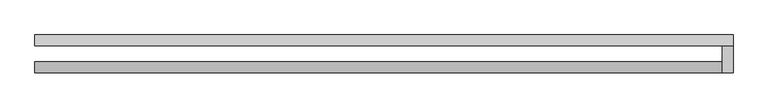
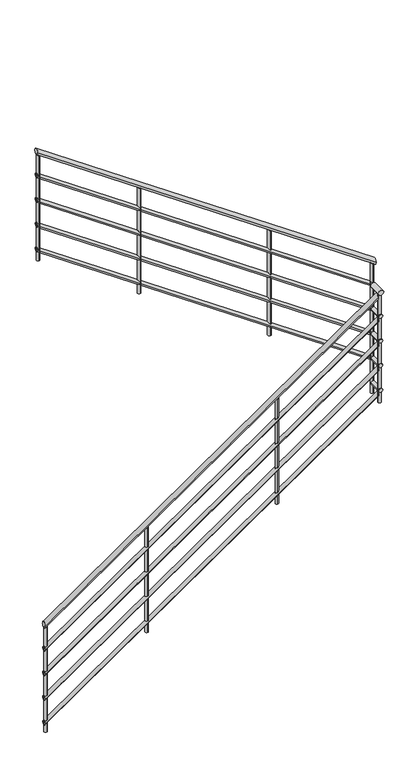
"""IFC4 building model written with IfcOpenShell, lengths in millimetres: railing geometry, r パイプ H900."""

import ifcopenshell
import ifcopenshell.guid

model = None  # the IFC model being written
_history = None  # IfcOwnerHistory: only IFC2X3 demands one
_inside = {}  # id of a spatial element -> (the spatial element, [elements in it])
_under = {}  # id of a project, library or spatial element -> (it, [spatial elements below it])
_declared = {}  # id of a project -> (the project, [libraries it declares])
_typed = {}  # id of a type object -> (the type object, [elements of that type])
_made_of = {}  # id of a material, layer set ... -> (it, [elements and type objects made of it])


def new_model(schema):
    """Start an empty IFC model of exactly this schema.

    Asked for "IFC4X3", IfcOpenShell would pick the latest addendum, in which some entities
    have other attributes; the version numbers below select the first issue.
    IFC2X3 requires an IfcOwnerHistory on every rooted entity: one is made here for all.
    """
    global model, _history
    if schema == "IFC4X3":
        model = ifcopenshell.file(schema_version=(4, 3, 0, 0))
    else:
        model = ifcopenshell.file(schema=schema)
    _inside.clear()
    _under.clear()
    _declared.clear()
    _typed.clear()
    _made_of.clear()
    _history = None
    if model.schema == "IFC2X3":
        org = make("IfcOrganization", Name="unknown")
        user = make(
            "IfcPersonAndOrganization",
            ThePerson=make("IfcPerson", FamilyName="unknown"),
            TheOrganization=org,
        )
        app = make(
            "IfcApplication",
            ApplicationDeveloper=org,
            Version="unknown",
            ApplicationFullName="unknown",
            ApplicationIdentifier="unknown",
        )
        _history = make(
            "IfcOwnerHistory",
            OwningUser=user,
            OwningApplication=app,
            ChangeAction="ADDED",
            CreationDate=0,
        )
    return model


def make(cls, **values):
    """One entity of the class cls with the attributes given. An attribute that is None is left unset."""
    return model.create_entity(
        cls, **{name: value for name, value in values.items() if value is not None}
    )


def rooted(cls, **values):
    """An entity with a GlobalId (a new one), such as an element, a storey or a relation."""
    return make(cls, GlobalId=ifcopenshell.guid.new(), OwnerHistory=_history, **values)


def si_unit(unit_type, name, prefix=None):
    """IfcSIUnit, for example si_unit("LENGTHUNIT", "METRE", prefix="MILLI")."""
    return make("IfcSIUnit", UnitType=unit_type, Prefix=prefix, Name=name)


def assignment(units):
    """IfcUnitAssignment: the units of a project."""
    return None if units is None else make("IfcUnitAssignment", Units=units)


def point(xyz):
    """IfcCartesianPoint."""
    return None if xyz is None else make("IfcCartesianPoint", Coordinates=xyz)


def direction(xyz):
    """IfcDirection."""
    return None if xyz is None else make("IfcDirection", DirectionRatios=xyz)


def frame(location, z_axis=None, x_axis=None):
    """IfcAxis2Placement3D, a coordinate frame: its origin and axes. An axis left out is left unset."""
    return make(
        "IfcAxis2Placement3D",
        Location=point(location),
        Axis=direction(z_axis),
        RefDirection=direction(x_axis),
    )


def frame_2d(location, x_axis=None):
    """IfcAxis2Placement2D, a coordinate frame in the plane: its origin and x axis."""
    return make(
        "IfcAxis2Placement2D", Location=point(location), RefDirection=direction(x_axis)
    )


def origin():
    """The frame at (0, 0, 0) with its axes left unset."""
    return frame((0.0, 0.0, 0.0))


def place(relative_to, where):
    """IfcLocalPlacement: puts the frame where relative to a parent placement (None: the world)."""
    return make(
        "IfcLocalPlacement", PlacementRelTo=relative_to, RelativePlacement=where
    )


def context(
    kind, dimensions, precision=None, world=None, true_north=None, identifier=None
):
    """IfcGeometricRepresentationContext, for example the 3D "Model" context."""
    return make(
        "IfcGeometricRepresentationContext",
        ContextIdentifier=identifier,
        ContextType=kind,
        CoordinateSpaceDimension=dimensions,
        Precision=precision,
        WorldCoordinateSystem=world,
        TrueNorth=true_north,
    )


def project(units=None, contexts=None):
    """IfcProject with its units and contexts."""
    return rooted(
        "IfcProject",
        Name="project",
        RepresentationContexts=contexts,
        UnitsInContext=assignment(units),
    )


def spatial(cls, under=None, at=None, **own):
    """A site, building, storey or space (cls), placed at a placement, below another one or the project."""
    s = rooted(cls, ObjectPlacement=at, **own)
    if under is not None:
        _under.setdefault(under.id(), (under, []))[1].append(s)
    return s


def circle_curve(where, radius):
    """IfcCircle in the frame where."""
    return make("IfcCircle", Position=where, Radius=radius)


def ellipse_curve(where, semi_axis1, semi_axis2):
    """IfcEllipse in the frame where."""
    return make(
        "IfcEllipse", Position=where, SemiAxis1=semi_axis1, SemiAxis2=semi_axis2
    )


def trimmed(basis, trim1, trim2, sense, master):
    """IfcTrimmedCurve: the piece of a basis curve between two trims."""
    return make(
        "IfcTrimmedCurve",
        BasisCurve=basis,
        Trim1=trim1,
        Trim2=trim2,
        SenseAgreement=sense,
        MasterRepresentation=master,
    )


def segment(curve, same_sense, transition):
    """IfcCompositeCurveSegment."""
    return make(
        "IfcCompositeCurveSegment",
        Transition=transition,
        SameSense=same_sense,
        ParentCurve=curve,
    )


def composite_curve(segments, self_intersect=None):
    """IfcCompositeCurve: segments joined end to end."""
    return make("IfcCompositeCurve", Segments=segments, SelfIntersect=self_intersect)


def outline(outer, holes=None, kind="AREA"):
    """IfcArbitraryClosedProfileDef: a profile drawn as a closed curve; with holes, ...WithVoids."""
    if holes is None:
        return make("IfcArbitraryClosedProfileDef", ProfileType=kind, OuterCurve=outer)
    return make(
        "IfcArbitraryProfileDefWithVoids",
        ProfileType=kind,
        OuterCurve=outer,
        InnerCurves=holes,
    )


def extrude(swept, where, along, depth):
    """IfcExtrudedAreaSolid: the profile swept, set in the frame where, extruded along a direction by depth."""
    return make(
        "IfcExtrudedAreaSolid",
        SweptArea=swept,
        Position=where,
        ExtrudedDirection=direction(along),
        Depth=depth,
    )


def shape(context_of_items, identifier, shape_type, items):
    """IfcShapeRepresentation: the items that make up one representation, for example the "Body"."""
    return make(
        "IfcShapeRepresentation",
        ContextOfItems=context_of_items,
        RepresentationIdentifier=identifier,
        RepresentationType=shape_type,
        Items=items,
    )


def source(mapping_origin, context_of_items, identifier, shape_type, items):
    """IfcRepresentationMap: a shape defined once, which mapped items show again and again."""
    return make(
        "IfcRepresentationMap",
        MappingOrigin=mapping_origin,
        MappedRepresentation=shape(context_of_items, identifier, shape_type, items),
    )


def transform(
    local_origin,
    x_axis=None,
    y_axis=None,
    z_axis=None,
    scale=None,
    scale2=None,
    scale3=None,
    uniform=True,
):
    """IfcCartesianTransformationOperator3D, or its non-uniform kind. x_axis, y_axis, z_axis: its Axis1, 2, 3."""
    if uniform:
        return make(
            "IfcCartesianTransformationOperator3D",
            Axis1=direction(x_axis),
            Axis2=direction(y_axis),
            LocalOrigin=point(local_origin),
            Scale=scale,
            Axis3=direction(z_axis),
        )
    return make(
        "IfcCartesianTransformationOperator3DnonUniform",
        Axis1=direction(x_axis),
        Axis2=direction(y_axis),
        LocalOrigin=point(local_origin),
        Scale=scale,
        Axis3=direction(z_axis),
        Scale2=scale2,
        Scale3=scale3,
    )


def mapped(mapping_source, mapping_target):
    """IfcMappedItem: shows the shape of a source again, moved by a transform."""
    return make(
        "IfcMappedItem", MappingSource=mapping_source, MappingTarget=mapping_target
    )


def made_of(thing, what):
    """Note that an element or type object is made of a material, layer set ...; save() writes the relation."""
    if what is not None:
        _made_of.setdefault(what.id(), (what, []))[1].append(thing)
    return thing


def element(
    cls,
    number,
    at=None,
    inside=None,
    cuts=None,
    type_object=None,
    material=None,
    context=None,
    identifier="Body",
    shape_type=None,
    held_by="IfcProductDefinitionShape",
    body=None,
    shapes=None,
    **own,
):
    """One element of the class cls, such as IfcWall. Its Tag is "e" and its number.

    at: its placement. inside: the storey or other place that contains it. cuts: it is an
    opening in that element (IfcRelVoidsElement). A single representation is given by context,
    identifier, shape_type and body (its items); several are given by shapes. held_by: the class
    of the entity that holds the representations. save() writes the other relations.
    """
    e = rooted(cls, Tag="e%d" % number, ObjectPlacement=at, **own)
    if body is not None:
        shapes = [shape(context, identifier, shape_type, body)]
    if shapes is not None:
        e.Representation = make(held_by, Representations=shapes)
    if inside is not None:
        _inside.setdefault(inside.id(), (inside, []))[1].append(e)
    if cuts is not None:
        rooted(
            "IfcRelVoidsElement", RelatingBuildingElement=cuts, RelatedOpeningElement=e
        )
    if type_object is not None:
        _typed.setdefault(type_object.id(), (type_object, []))[1].append(e)
    return made_of(e, material)


def aggregate(whole, parts):
    """IfcRelAggregates: a whole, such as a stair, and the parts it consists of."""
    return rooted("IfcRelAggregates", RelatingObject=whole, RelatedObjects=parts)


def save(model, path):
    """Write the relations noted so far, then the file.

    IfcRelAggregates (storeys below a building ...), IfcRelContainedInSpatialStructure (elements
    in a storey), IfcRelDefinesByType, IfcRelAssociatesMaterial and IfcRelDeclares: one each for
    every whole, place, type object, material and project.
    """
    for whole, parts in _under.values():
        aggregate(whole, parts)
    for where, things in _inside.values():
        rooted(
            "IfcRelContainedInSpatialStructure",
            RelatedElements=things,
            RelatingStructure=where,
        )
    for kind, things in _typed.values():
        rooted("IfcRelDefinesByType", RelatedObjects=things, RelatingType=kind)
    for what, things in _made_of.values():
        rooted("IfcRelAssociatesMaterial", RelatedObjects=things, RelatingMaterial=what)
    for by, libraries in _declared.values():
        rooted("IfcRelDeclares", RelatingContext=by, RelatedDefinitions=libraries)
    model.write(path)


def plane_surface(at):
    """IfcPlane: the flat surface through the origin of the frame at, square to its z axis."""
    return make("IfcPlane", Position=at)


def cylinder_surface(at, radius):
    """IfcCylindricalSurface: all points at the distance radius from the z axis of the frame at."""
    return make("IfcCylindricalSurface", Position=at, Radius=radius)


def advanced_brep(points, edges, surfaces, faces):
    """IfcAdvancedBrep: a solid bounded by faces that lie on surfaces and meet in shared edges.

    An edge is (start, end): straight between two places in points (the first is 0);
    or (start, end, curve); or (start, end, curve, False) where it runs against its curve.
    A face is (place in surfaces, loops), or (place, loops, False) where it looks against
    its surface's normal. A loop lists edges by number (the first is 1), with a minus sign
    where the edge is run from its end to its start. The first loop is the outer one.
    """
    corners = [point(p) for p in points]
    vertices = [make("IfcVertexPoint", VertexGeometry=c) for c in corners]
    made = []
    for start, end, *more in edges:
        made.append(
            make(
                "IfcEdgeCurve",
                EdgeStart=vertices[start],
                EdgeEnd=vertices[end],
                EdgeGeometry=more[0] if more else make("IfcPolyline", Points=[corners[start], corners[end]]),
                SameSense=more[1] if len(more) > 1 else True,
            )
        )
    hull = []
    for where, loops, *sense in faces:
        bounds = []
        for j, loop in enumerate(loops):
            ring = [make("IfcOrientedEdge", EdgeElement=made[abs(k) - 1], Orientation=k > 0) for k in loop]
            bounds.append(
                make(
                    "IfcFaceOuterBound" if j == 0 else "IfcFaceBound",
                    Bound=make("IfcEdgeLoop", EdgeList=ring),
                    Orientation=True,
                )
            )
        hull.append(make("IfcAdvancedFace", Bounds=bounds, FaceSurface=surfaces[where], SameSense=sense[0] if sense else True))
    return make("IfcAdvancedBrep", Outer=make("IfcClosedShell", CfsFaces=hull))


def railing_d2a92688(model_context):
    return source(origin(), model_context, "Body", "SolidModel", [
        advanced_brep(
        [(-1895.9784025, 14854.6868987, 1695.6747872), (-1895.9784025, 14894.6868987, 1695.6747872), (659.0215975, 14854.6868987, 3464.5209411), (659.0215975, 14894.6868987, 3464.5209411)],
        [
            (0, 1, ellipse_curve(frame((-1895.9784025, 14874.6868987, 1695.6747872), z_axis=(-1.0, 0.0, 0.0), x_axis=(0.0, 0.0, -1.0)), 24.3252128, 20.0)),
            (1, 0, ellipse_curve(frame((-1895.9784025, 14874.6868987, 1695.6747872), z_axis=(-1.0, 0.0, 0.0), x_axis=(0.0, 0.0, -1.0)), 24.3252128, 20.0)),
            (2, 3, ellipse_curve(frame((659.0215975, 14874.6868987, 3464.5209411), z_axis=(1.0, 0.0, 0.0), x_axis=(0.0, 0.0, -1.0)), 24.3252128, 20.0)),
            (3, 2, ellipse_curve(frame((659.0215975, 14874.6868987, 3464.5209411), z_axis=(1.0, 0.0, 0.0), x_axis=(0.0, 0.0, -1.0)), 24.3252128, 20.0)),
            (0, 2),
            (3, 1),
        ],
        [
            plane_surface(frame((-1895.9784025, 14874.6868987, 1720.0), z_axis=(-1.0, 0.0, 0.0), x_axis=(0.0, 1.0, 0.0))),
            plane_surface(frame((659.0215975, 14874.6868987, 3488.8461538), z_axis=(1.0, 0.0, 0.0), x_axis=(0.0, 1.0, 0.0))),
            cylinder_surface(frame((-1884.5942029, 14874.6868987, 1703.5561562), z_axis=(-0.8221921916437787, 0.0, -0.5692099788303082), x_axis=(0.0, 1.0, 0.0)), 20.0),
        ],
        [
            (0, [[1, 2]]),
            (1, [[3, 4]]),
            (2, [[-1, 5, -4, 6]]),
            (2, [[-2, -6, -3, -5]]),
        ],
    ),
        advanced_brep(
        [(699.0215975, 14854.6868987, 3500.0), (659.0215975, 14854.6868987, 3500.0), (699.0215975, 14954.6868987, 3500.0), (659.0215975, 14954.6868987, 3500.0)],
        [
            (0, 1, circle_curve(frame((679.0215975, 14854.6868987, 3500.0), z_axis=(0.0, -1.0, 0.0), x_axis=(-1.0, 0.0, 0.0)), 20.0)),
            (1, 0, circle_curve(frame((679.0215975, 14854.6868987, 3500.0), z_axis=(0.0, -1.0, 0.0), x_axis=(-1.0, 0.0, 0.0)), 20.0)),
            (2, 3, circle_curve(frame((679.0215975, 14954.6868987, 3500.0), z_axis=(0.0, 1.0, 0.0), x_axis=(-1.0, 0.0, 0.0)), 20.0)),
            (3, 2, circle_curve(frame((679.0215975, 14954.6868987, 3500.0), z_axis=(0.0, 1.0, 0.0), x_axis=(-1.0, 0.0, 0.0)), 20.0)),
            (0, 2),
            (3, 1),
        ],
        [
            plane_surface(frame((679.0215975, 14854.6868987, 3520.0), z_axis=(0.0, -1.0, 0.0), x_axis=(0.0, 0.0, 1.0))),
            plane_surface(frame((679.0215975, 14954.6868987, 3520.0), z_axis=(0.0, 1.0, 0.0), x_axis=(0.0, 0.0, 1.0))),
            cylinder_surface(frame((679.0215975, 14854.6868987, 3500.0), z_axis=(0.0, -1.0, 0.0), x_axis=(-1.0, 0.0, 0.0)), 20.0),
        ],
        [
            (0, [[1, 2]]),
            (1, [[3, 4]]),
            (2, [[-1, 5, -4, 6]]),
            (2, [[-2, -6, -3, -5]]),
        ],
    ),
        advanced_brep(
        [(699.0215975, 14994.6868987, 3679.1363257), (699.0215975, 14954.6868987, 3679.1363257), (-1895.9784025, 14994.6868987, 5475.6747872), (-1895.9784025, 14954.6868987, 5475.6747872)],
        [
            (0, 1, ellipse_curve(frame((699.0215975, 14974.6868987, 3679.1363257), z_axis=(1.0, 0.0, 0.0), x_axis=(0.0, 0.0, -1.0)), 24.3252128, 20.0)),
            (1, 0, ellipse_curve(frame((699.0215975, 14974.6868987, 3679.1363257), z_axis=(1.0, 0.0, 0.0), x_axis=(0.0, 0.0, -1.0)), 24.3252128, 20.0)),
            (2, 3, ellipse_curve(frame((-1895.9784025, 14974.6868987, 5475.6747872), z_axis=(-1.0, 0.0, 0.0), x_axis=(0.0, 0.0, -1.0)), 24.3252128, 20.0)),
            (3, 2, ellipse_curve(frame((-1895.9784025, 14974.6868987, 5475.6747872), z_axis=(-1.0, 0.0, 0.0), x_axis=(0.0, 0.0, -1.0)), 24.3252128, 20.0)),
            (0, 2),
            (3, 1),
        ],
        [
            plane_surface(frame((699.0215975, 14974.6868987, 3703.4615385), z_axis=(1.0, 0.0, 0.0), x_axis=(0.0, -1.0, 0.0))),
            plane_surface(frame((-1895.9784025, 14974.6868987, 5500.0), z_axis=(-1.0, 0.0, 0.0), x_axis=(0.0, -1.0, 0.0))),
            cylinder_surface(frame((687.6373979, 14974.6868987, 3687.0176946), z_axis=(0.8221921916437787, 0.0, -0.5692099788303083), x_axis=(0.0, -1.0, 0.0)), 20.0),
        ],
        [
            (0, [[1, 2]]),
            (1, [[3, 4]]),
            (2, [[-1, 5, -4, 6]]),
            (2, [[-2, -6, -3, -5]]),
        ],
    ),
        advanced_brep(
        [(-1895.9784025, 14859.6868987, 1501.7560904), (-1895.9784025, 14889.6868987, 1501.7560904), (664.0215975, 14859.6868987, 3274.0637827), (664.0215975, 14889.6868987, 3274.0637827)],
        [
            (0, 1, ellipse_curve(frame((-1895.9784025, 14874.6868987, 1501.7560904), z_axis=(-1.0, 0.0, 0.0), x_axis=(0.0, 0.0, -1.0)), 18.2439096, 15.0)),
            (1, 0, ellipse_curve(frame((-1895.9784025, 14874.6868987, 1501.7560904), z_axis=(-1.0, 0.0, 0.0), x_axis=(0.0, 0.0, -1.0)), 18.2439096, 15.0)),
            (2, 3, ellipse_curve(frame((664.0215975, 14874.6868987, 3274.0637827), z_axis=(1.0, 0.0, 0.0), x_axis=(0.0, 0.0, -1.0)), 18.2439096, 15.0)),
            (3, 2, ellipse_curve(frame((664.0215975, 14874.6868987, 3274.0637827), z_axis=(1.0, 0.0, 0.0), x_axis=(0.0, 0.0, -1.0)), 18.2439096, 15.0)),
            (0, 2),
            (3, 1),
        ],
        [
            plane_surface(frame((-1895.9784025, 14874.6868987, 1520.0), z_axis=(-1.0, 0.0, 0.0), x_axis=(0.0, 1.0, 0.0))),
            plane_surface(frame((664.0215975, 14874.6868987, 3292.3076923), z_axis=(1.0, 0.0, 0.0), x_axis=(0.0, 1.0, 0.0))),
            cylinder_surface(frame((-1887.4402528, 14874.6868987, 1507.6671171), z_axis=(-0.8221921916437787, 0.0, -0.5692099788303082), x_axis=(0.0, 1.0, 0.0)), 15.0),
        ],
        [
            (0, [[1, 2]]),
            (1, [[3, 4]]),
            (2, [[-1, 5, -4, 6]]),
            (2, [[-2, -6, -3, -5]]),
        ],
    ),
        advanced_brep(
        [(694.0215975, 14859.6868987, 3305.0), (664.0215975, 14859.6868987, 3305.0), (694.0215975, 14959.6868987, 3305.0), (664.0215975, 14959.6868987, 3305.0)],
        [
            (0, 1, circle_curve(frame((679.0215975, 14859.6868987, 3305.0), z_axis=(0.0, -1.0, 0.0), x_axis=(-1.0, 0.0, 0.0)), 15.0)),
            (1, 0, circle_curve(frame((679.0215975, 14859.6868987, 3305.0), z_axis=(0.0, -1.0, 0.0), x_axis=(-1.0, 0.0, 0.0)), 15.0)),
            (2, 3, circle_curve(frame((679.0215975, 14959.6868987, 3305.0), z_axis=(0.0, 1.0, 0.0), x_axis=(-1.0, 0.0, 0.0)), 15.0)),
            (3, 2, circle_curve(frame((679.0215975, 14959.6868987, 3305.0), z_axis=(0.0, 1.0, 0.0), x_axis=(-1.0, 0.0, 0.0)), 15.0)),
            (0, 2),
            (3, 1),
        ],
        [
            plane_surface(frame((679.0215975, 14859.6868987, 3320.0), z_axis=(0.0, -1.0, 0.0), x_axis=(0.0, 0.0, 1.0))),
            plane_surface(frame((679.0215975, 14959.6868987, 3320.0), z_axis=(0.0, 1.0, 0.0), x_axis=(0.0, 0.0, 1.0))),
            cylinder_surface(frame((679.0215975, 14859.6868987, 3305.0), z_axis=(0.0, -1.0, 0.0), x_axis=(-1.0, 0.0, 0.0)), 15.0),
        ],
        [
            (0, [[1, 2]]),
            (1, [[3, 4]]),
            (2, [[-1, 5, -4, 6]]),
            (2, [[-2, -6, -3, -5]]),
        ],
    ),
        advanced_brep(
        [(694.0215975, 14989.6868987, 3488.6791673), (694.0215975, 14959.6868987, 3488.6791673), (-1895.9784025, 14989.6868987, 5281.7560904), (-1895.9784025, 14959.6868987, 5281.7560904)],
        [
            (0, 1, ellipse_curve(frame((694.0215975, 14974.6868987, 3488.6791673), z_axis=(1.0, 0.0, 0.0), x_axis=(0.0, 0.0, -1.0)), 18.2439096, 15.0)),
            (1, 0, ellipse_curve(frame((694.0215975, 14974.6868987, 3488.6791673), z_axis=(1.0, 0.0, 0.0), x_axis=(0.0, 0.0, -1.0)), 18.2439096, 15.0)),
            (2, 3, ellipse_curve(frame((-1895.9784025, 14974.6868987, 5281.7560904), z_axis=(-1.0, 0.0, 0.0), x_axis=(0.0, 0.0, -1.0)), 18.2439096, 15.0)),
            (3, 2, ellipse_curve(frame((-1895.9784025, 14974.6868987, 5281.7560904), z_axis=(-1.0, 0.0, 0.0), x_axis=(0.0, 0.0, -1.0)), 18.2439096, 15.0)),
            (0, 2),
            (3, 1),
        ],
        [
            plane_surface(frame((694.0215975, 14974.6868987, 3506.9230769), z_axis=(1.0, 0.0, 0.0), x_axis=(0.0, -1.0, 0.0))),
            plane_surface(frame((-1895.9784025, 14974.6868987, 5300.0), z_axis=(-1.0, 0.0, 0.0), x_axis=(0.0, -1.0, 0.0))),
            cylinder_surface(frame((685.4834478, 14974.6868987, 3494.590194), z_axis=(0.8221921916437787, 0.0, -0.5692099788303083), x_axis=(0.0, -1.0, 0.0)), 15.0),
        ],
        [
            (0, [[1, 2]]),
            (1, [[3, 4]]),
            (2, [[-1, 5, -4, 6]]),
            (2, [[-2, -6, -3, -5]]),
        ],
    ),
        advanced_brep(
        [(-1895.9784025, 14859.6868987, 1301.7560904), (-1895.9784025, 14889.6868987, 1301.7560904), (664.0215975, 14859.6868987, 3074.0637827), (664.0215975, 14889.6868987, 3074.0637827)],
        [
            (0, 1, ellipse_curve(frame((-1895.9784025, 14874.6868987, 1301.7560904), z_axis=(-1.0, 0.0, 0.0), x_axis=(0.0, 0.0, -1.0)), 18.2439096, 15.0)),
            (1, 0, ellipse_curve(frame((-1895.9784025, 14874.6868987, 1301.7560904), z_axis=(-1.0, 0.0, 0.0), x_axis=(0.0, 0.0, -1.0)), 18.2439096, 15.0)),
            (2, 3, ellipse_curve(frame((664.0215975, 14874.6868987, 3074.0637827), z_axis=(1.0, 0.0, 0.0), x_axis=(0.0, 0.0, -1.0)), 18.2439096, 15.0)),
            (3, 2, ellipse_curve(frame((664.0215975, 14874.6868987, 3074.0637827), z_axis=(1.0, 0.0, 0.0), x_axis=(0.0, 0.0, -1.0)), 18.2439096, 15.0)),
            (0, 2),
            (3, 1),
        ],
        [
            plane_surface(frame((-1895.9784025, 14874.6868987, 1320.0), z_axis=(-1.0, 0.0, 0.0), x_axis=(0.0, 1.0, 0.0))),
            plane_surface(frame((664.0215975, 14874.6868987, 3092.3076923), z_axis=(1.0, 0.0, 0.0), x_axis=(0.0, 1.0, 0.0))),
            cylinder_surface(frame((-1887.4402528, 14874.6868987, 1307.6671171), z_axis=(-0.8221921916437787, 0.0, -0.5692099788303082), x_axis=(0.0, 1.0, 0.0)), 15.0),
        ],
        [
            (0, [[1, 2]]),
            (1, [[3, 4]]),
            (2, [[-1, 5, -4, 6]]),
            (2, [[-2, -6, -3, -5]]),
        ],
    ),
        advanced_brep(
        [(694.0215975, 14859.6868987, 3105.0), (664.0215975, 14859.6868987, 3105.0), (694.0215975, 14959.6868987, 3105.0), (664.0215975, 14959.6868987, 3105.0)],
        [
            (0, 1, circle_curve(frame((679.0215975, 14859.6868987, 3105.0), z_axis=(0.0, -1.0, 0.0), x_axis=(-1.0, 0.0, 0.0)), 15.0)),
            (1, 0, circle_curve(frame((679.0215975, 14859.6868987, 3105.0), z_axis=(0.0, -1.0, 0.0), x_axis=(-1.0, 0.0, 0.0)), 15.0)),
            (2, 3, circle_curve(frame((679.0215975, 14959.6868987, 3105.0), z_axis=(0.0, 1.0, 0.0), x_axis=(-1.0, 0.0, 0.0)), 15.0)),
            (3, 2, circle_curve(frame((679.0215975, 14959.6868987, 3105.0), z_axis=(0.0, 1.0, 0.0), x_axis=(-1.0, 0.0, 0.0)), 15.0)),
            (0, 2),
            (3, 1),
        ],
        [
            plane_surface(frame((679.0215975, 14859.6868987, 3120.0), z_axis=(0.0, -1.0, 0.0), x_axis=(0.0, 0.0, 1.0))),
            plane_surface(frame((679.0215975, 14959.6868987, 3120.0), z_axis=(0.0, 1.0, 0.0), x_axis=(0.0, 0.0, 1.0))),
            cylinder_surface(frame((679.0215975, 14859.6868987, 3105.0), z_axis=(0.0, -1.0, 0.0), x_axis=(-1.0, 0.0, 0.0)), 15.0),
        ],
        [
            (0, [[1, 2]]),
            (1, [[3, 4]]),
            (2, [[-1, 5, -4, 6]]),
            (2, [[-2, -6, -3, -5]]),
        ],
    ),
        advanced_brep(
        [(694.0215975, 14989.6868987, 3288.6791673), (694.0215975, 14959.6868987, 3288.6791673), (-1895.9784025, 14989.6868987, 5081.7560904), (-1895.9784025, 14959.6868987, 5081.7560904)],
        [
            (0, 1, ellipse_curve(frame((694.0215975, 14974.6868987, 3288.6791673), z_axis=(1.0, 0.0, 0.0), x_axis=(0.0, 0.0, -1.0)), 18.2439096, 15.0)),
            (1, 0, ellipse_curve(frame((694.0215975, 14974.6868987, 3288.6791673), z_axis=(1.0, 0.0, 0.0), x_axis=(0.0, 0.0, -1.0)), 18.2439096, 15.0)),
            (2, 3, ellipse_curve(frame((-1895.9784025, 14974.6868987, 5081.7560904), z_axis=(-1.0, 0.0, 0.0), x_axis=(0.0, 0.0, -1.0)), 18.2439096, 15.0)),
            (3, 2, ellipse_curve(frame((-1895.9784025, 14974.6868987, 5081.7560904), z_axis=(-1.0, 0.0, 0.0), x_axis=(0.0, 0.0, -1.0)), 18.2439096, 15.0)),
            (0, 2),
            (3, 1),
        ],
        [
            plane_surface(frame((694.0215975, 14974.6868987, 3306.9230769), z_axis=(1.0, 0.0, 0.0), x_axis=(0.0, -1.0, 0.0))),
            plane_surface(frame((-1895.9784025, 14974.6868987, 5100.0), z_axis=(-1.0, 0.0, 0.0), x_axis=(0.0, -1.0, 0.0))),
            cylinder_surface(frame((685.4834478, 14974.6868987, 3294.590194), z_axis=(0.8221921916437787, 0.0, -0.5692099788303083), x_axis=(0.0, -1.0, 0.0)), 15.0),
        ],
        [
            (0, [[1, 2]]),
            (1, [[3, 4]]),
            (2, [[-1, 5, -4, 6]]),
            (2, [[-2, -6, -3, -5]]),
        ],
    ),
        advanced_brep(
        [(-1895.9784025, 14859.6868987, 1101.7560904), (-1895.9784025, 14889.6868987, 1101.7560904), (664.0215975, 14859.6868987, 2874.0637827), (664.0215975, 14889.6868987, 2874.0637827)],
        [
            (0, 1, ellipse_curve(frame((-1895.9784025, 14874.6868987, 1101.7560904), z_axis=(-1.0, 0.0, 0.0), x_axis=(0.0, 0.0, -1.0)), 18.2439096, 15.0)),
            (1, 0, ellipse_curve(frame((-1895.9784025, 14874.6868987, 1101.7560904), z_axis=(-1.0, 0.0, 0.0), x_axis=(0.0, 0.0, -1.0)), 18.2439096, 15.0)),
            (2, 3, ellipse_curve(frame((664.0215975, 14874.6868987, 2874.0637827), z_axis=(1.0, 0.0, 0.0), x_axis=(0.0, 0.0, -1.0)), 18.2439096, 15.0)),
            (3, 2, ellipse_curve(frame((664.0215975, 14874.6868987, 2874.0637827), z_axis=(1.0, 0.0, 0.0), x_axis=(0.0, 0.0, -1.0)), 18.2439096, 15.0)),
            (0, 2),
            (3, 1),
        ],
        [
            plane_surface(frame((-1895.9784025, 14874.6868987, 1120.0), z_axis=(-1.0, 0.0, 0.0), x_axis=(0.0, 1.0, 0.0))),
            plane_surface(frame((664.0215975, 14874.6868987, 2892.3076923), z_axis=(1.0, 0.0, 0.0), x_axis=(0.0, 1.0, 0.0))),
            cylinder_surface(frame((-1887.4402528, 14874.6868987, 1107.6671171), z_axis=(-0.8221921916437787, 0.0, -0.5692099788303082), x_axis=(0.0, 1.0, 0.0)), 15.0),
        ],
        [
            (0, [[1, 2]]),
            (1, [[3, 4]]),
            (2, [[-1, 5, -4, 6]]),
            (2, [[-2, -6, -3, -5]]),
        ],
    ),
        advanced_brep(
        [(694.0215975, 14859.6868987, 2905.0), (664.0215975, 14859.6868987, 2905.0), (694.0215975, 14959.6868987, 2905.0), (664.0215975, 14959.6868987, 2905.0)],
        [
            (0, 1, circle_curve(frame((679.0215975, 14859.6868987, 2905.0), z_axis=(0.0, -1.0, 0.0), x_axis=(-1.0, 0.0, 0.0)), 15.0)),
            (1, 0, circle_curve(frame((679.0215975, 14859.6868987, 2905.0), z_axis=(0.0, -1.0, 0.0), x_axis=(-1.0, 0.0, 0.0)), 15.0)),
            (2, 3, circle_curve(frame((679.0215975, 14959.6868987, 2905.0), z_axis=(0.0, 1.0, 0.0), x_axis=(-1.0, 0.0, 0.0)), 15.0)),
            (3, 2, circle_curve(frame((679.0215975, 14959.6868987, 2905.0), z_axis=(0.0, 1.0, 0.0), x_axis=(-1.0, 0.0, 0.0)), 15.0)),
            (0, 2),
            (3, 1),
        ],
        [
            plane_surface(frame((679.0215975, 14859.6868987, 2920.0), z_axis=(0.0, -1.0, 0.0), x_axis=(0.0, 0.0, 1.0))),
            plane_surface(frame((679.0215975, 14959.6868987, 2920.0), z_axis=(0.0, 1.0, 0.0), x_axis=(0.0, 0.0, 1.0))),
            cylinder_surface(frame((679.0215975, 14859.6868987, 2905.0), z_axis=(0.0, -1.0, 0.0), x_axis=(-1.0, 0.0, 0.0)), 15.0),
        ],
        [
            (0, [[1, 2]]),
            (1, [[3, 4]]),
            (2, [[-1, 5, -4, 6]]),
            (2, [[-2, -6, -3, -5]]),
        ],
    ),
        advanced_brep(
        [(694.0215975, 14989.6868987, 3088.6791673), (694.0215975, 14959.6868987, 3088.6791673), (-1895.9784025, 14989.6868987, 4881.7560904), (-1895.9784025, 14959.6868987, 4881.7560904)],
        [
            (0, 1, ellipse_curve(frame((694.0215975, 14974.6868987, 3088.6791673), z_axis=(1.0, 0.0, 0.0), x_axis=(0.0, 0.0, -1.0)), 18.2439096, 15.0)),
            (1, 0, ellipse_curve(frame((694.0215975, 14974.6868987, 3088.6791673), z_axis=(1.0, 0.0, 0.0), x_axis=(0.0, 0.0, -1.0)), 18.2439096, 15.0)),
            (2, 3, ellipse_curve(frame((-1895.9784025, 14974.6868987, 4881.7560904), z_axis=(-1.0, 0.0, 0.0), x_axis=(0.0, 0.0, -1.0)), 18.2439096, 15.0)),
            (3, 2, ellipse_curve(frame((-1895.9784025, 14974.6868987, 4881.7560904), z_axis=(-1.0, 0.0, 0.0), x_axis=(0.0, 0.0, -1.0)), 18.2439096, 15.0)),
            (0, 2),
            (3, 1),
        ],
        [
            plane_surface(frame((694.0215975, 14974.6868987, 3106.9230769), z_axis=(1.0, 0.0, 0.0), x_axis=(0.0, -1.0, 0.0))),
            plane_surface(frame((-1895.9784025, 14974.6868987, 4900.0), z_axis=(-1.0, 0.0, 0.0), x_axis=(0.0, -1.0, 0.0))),
            cylinder_surface(frame((685.4834478, 14974.6868987, 3094.590194), z_axis=(0.8221921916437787, 0.0, -0.5692099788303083), x_axis=(0.0, -1.0, 0.0)), 15.0),
        ],
        [
            (0, [[1, 2]]),
            (1, [[3, 4]]),
            (2, [[-1, 5, -4, 6]]),
            (2, [[-2, -6, -3, -5]]),
        ],
    ),
        advanced_brep(
        [(-1895.9784025, 14859.6868987, 901.7560904), (-1895.9784025, 14889.6868987, 901.7560904), (664.0215975, 14859.6868987, 2674.0637827), (664.0215975, 14889.6868987, 2674.0637827)],
        [
            (0, 1, ellipse_curve(frame((-1895.9784025, 14874.6868987, 901.7560904), z_axis=(-1.0, 0.0, 0.0), x_axis=(0.0, 0.0, -1.0)), 18.2439096, 15.0)),
            (1, 0, ellipse_curve(frame((-1895.9784025, 14874.6868987, 901.7560904), z_axis=(-1.0, 0.0, 0.0), x_axis=(0.0, 0.0, -1.0)), 18.2439096, 15.0)),
            (2, 3, ellipse_curve(frame((664.0215975, 14874.6868987, 2674.0637827), z_axis=(1.0, 0.0, 0.0), x_axis=(0.0, 0.0, -1.0)), 18.2439096, 15.0)),
            (3, 2, ellipse_curve(frame((664.0215975, 14874.6868987, 2674.0637827), z_axis=(1.0, 0.0, 0.0), x_axis=(0.0, 0.0, -1.0)), 18.2439096, 15.0)),
            (0, 2),
            (3, 1),
        ],
        [
            plane_surface(frame((-1895.9784025, 14874.6868987, 920.0), z_axis=(-1.0, 0.0, 0.0), x_axis=(0.0, 1.0, 0.0))),
            plane_surface(frame((664.0215975, 14874.6868987, 2692.3076923), z_axis=(1.0, 0.0, 0.0), x_axis=(0.0, 1.0, 0.0))),
            cylinder_surface(frame((-1887.4402528, 14874.6868987, 907.6671171), z_axis=(-0.8221921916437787, 0.0, -0.5692099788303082), x_axis=(0.0, 1.0, 0.0)), 15.0),
        ],
        [
            (0, [[1, 2]]),
            (1, [[3, 4]]),
            (2, [[-1, 5, -4, 6]]),
            (2, [[-2, -6, -3, -5]]),
        ],
    ),
        advanced_brep(
        [(694.0215975, 14859.6868987, 2705.0), (664.0215975, 14859.6868987, 2705.0), (694.0215975, 14959.6868987, 2705.0), (664.0215975, 14959.6868987, 2705.0)],
        [
            (0, 1, circle_curve(frame((679.0215975, 14859.6868987, 2705.0), z_axis=(0.0, -1.0, 0.0), x_axis=(-1.0, 0.0, 0.0)), 15.0)),
            (1, 0, circle_curve(frame((679.0215975, 14859.6868987, 2705.0), z_axis=(0.0, -1.0, 0.0), x_axis=(-1.0, 0.0, 0.0)), 15.0)),
            (2, 3, circle_curve(frame((679.0215975, 14959.6868987, 2705.0), z_axis=(0.0, 1.0, 0.0), x_axis=(-1.0, 0.0, 0.0)), 15.0)),
            (3, 2, circle_curve(frame((679.0215975, 14959.6868987, 2705.0), z_axis=(0.0, 1.0, 0.0), x_axis=(-1.0, 0.0, 0.0)), 15.0)),
            (0, 2),
            (3, 1),
        ],
        [
            plane_surface(frame((679.0215975, 14859.6868987, 2720.0), z_axis=(0.0, -1.0, 0.0), x_axis=(0.0, 0.0, 1.0))),
            plane_surface(frame((679.0215975, 14959.6868987, 2720.0), z_axis=(0.0, 1.0, 0.0), x_axis=(0.0, 0.0, 1.0))),
            cylinder_surface(frame((679.0215975, 14859.6868987, 2705.0), z_axis=(0.0, -1.0, 0.0), x_axis=(-1.0, 0.0, 0.0)), 15.0),
        ],
        [
            (0, [[1, 2]]),
            (1, [[3, 4]]),
            (2, [[-1, 5, -4, 6]]),
            (2, [[-2, -6, -3, -5]]),
        ],
    ),
        advanced_brep(
        [(694.0215975, 14989.6868987, 2888.6791673), (694.0215975, 14959.6868987, 2888.6791673), (-1895.9784025, 14989.6868987, 4681.7560904), (-1895.9784025, 14959.6868987, 4681.7560904)],
        [
            (0, 1, ellipse_curve(frame((694.0215975, 14974.6868987, 2888.6791673), z_axis=(1.0, 0.0, 0.0), x_axis=(0.0, 0.0, -1.0)), 18.2439096, 15.0)),
            (1, 0, ellipse_curve(frame((694.0215975, 14974.6868987, 2888.6791673), z_axis=(1.0, 0.0, 0.0), x_axis=(0.0, 0.0, -1.0)), 18.2439096, 15.0)),
            (2, 3, ellipse_curve(frame((-1895.9784025, 14974.6868987, 4681.7560904), z_axis=(-1.0, 0.0, 0.0), x_axis=(0.0, 0.0, -1.0)), 18.2439096, 15.0)),
            (3, 2, ellipse_curve(frame((-1895.9784025, 14974.6868987, 4681.7560904), z_axis=(-1.0, 0.0, 0.0), x_axis=(0.0, 0.0, -1.0)), 18.2439096, 15.0)),
            (0, 2),
            (3, 1),
        ],
        [
            plane_surface(frame((694.0215975, 14974.6868987, 2906.9230769), z_axis=(1.0, 0.0, 0.0), x_axis=(0.0, -1.0, 0.0))),
            plane_surface(frame((-1895.9784025, 14974.6868987, 4700.0), z_axis=(-1.0, 0.0, 0.0), x_axis=(0.0, -1.0, 0.0))),
            cylinder_surface(frame((685.4834478, 14974.6868987, 2894.590194), z_axis=(0.8221921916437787, 0.0, -0.5692099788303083), x_axis=(0.0, -1.0, 0.0)), 15.0),
        ],
        [
            (0, [[1, 2]]),
            (1, [[3, 4]]),
            (2, [[-1, 5, -4, 6]]),
            (2, [[-2, -6, -3, -5]]),
        ],
    ),
        advanced_brep(
        [(-1108.4784025, 14962.1868987, 4906.1572668), (-1108.4784025, 14987.1868987, 4906.1572668), (-1108.4784025, 14987.1868987, 4054.8076923), (-1108.4784025, 14962.1868987, 4054.8076923)],
        [
            (0, 1, ellipse_curve(frame((-1108.4784025, 14974.6868987, 4906.1572668), z_axis=(-0.569209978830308, 0.0, -0.8221921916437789), x_axis=(-0.8221921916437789, 0.0, 0.5692099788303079)), 15.203258, 12.5)),
            (1, 2),
            (2, 3, circle_curve(frame((-1108.4784025, 14974.6868987, 4054.8076923), z_axis=(0.0, 0.0, 1.0), x_axis=(0.0, 1.0, 0.0)), 12.5)),
            (3, 0),
            (3, 2, circle_curve(frame((-1108.4784025, 14974.6868987, 4054.8076923), z_axis=(0.0, 0.0, 1.0), x_axis=(0.0, 1.0, 0.0)), 12.5)),
            (1, 0, ellipse_curve(frame((-1108.4784025, 14974.6868987, 4906.1572668), z_axis=(-0.569209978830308, 0.0, -0.8221921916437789), x_axis=(-0.8221921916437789, 0.0, 0.5692099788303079)), 15.203258, 12.5)),
        ],
        [
            cylinder_surface(frame((-1108.4784025, 14974.6868987, 3954.8076923), z_axis=(0.0, 0.0, 1.0), x_axis=(0.0, 1.0, 0.0)), 12.5),
            plane_surface(frame((-1133.4784025, 14999.6868987, 4923.4649591), z_axis=(0.569209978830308, 0.0, 0.8221921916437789), x_axis=(0.0, -1.0, 0.0))),
            plane_surface(frame((-1083.4784025, 14999.6868987, 4054.8076923), z_axis=(0.0, 0.0, -1.0), x_axis=(0.0, -1.0, 0.0))),
        ],
        [
            (0, [[1, 2, 3, 4]]),
            (0, [[5, -2, 6, -4]]),
            (1, [[-6, -1]]),
            (2, [[-5, -3]]),
        ],
    ),
        advanced_brep(
        [(-108.4784025, 14962.1868987, 4213.8495745), (-108.4784025, 14987.1868987, 4213.8495745), (-108.4784025, 14987.1868987, 3362.5), (-108.4784025, 14962.1868987, 3362.5)],
        [
            (0, 1, ellipse_curve(frame((-108.4784025, 14974.6868987, 4213.8495745), z_axis=(-0.569209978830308, 0.0, -0.8221921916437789), x_axis=(-0.8221921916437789, 0.0, 0.5692099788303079)), 15.203258, 12.5)),
            (1, 2),
            (2, 3, circle_curve(frame((-108.4784025, 14974.6868987, 3362.5), z_axis=(0.0, 0.0, 1.0), x_axis=(0.0, 1.0, 0.0)), 12.5)),
            (3, 0),
            (3, 2, circle_curve(frame((-108.4784025, 14974.6868987, 3362.5), z_axis=(0.0, 0.0, 1.0), x_axis=(0.0, 1.0, 0.0)), 12.5)),
            (1, 0, ellipse_curve(frame((-108.4784025, 14974.6868987, 4213.8495745), z_axis=(-0.569209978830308, 0.0, -0.8221921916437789), x_axis=(-0.8221921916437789, 0.0, 0.5692099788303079)), 15.203258, 12.5)),
        ],
        [
            cylinder_surface(frame((-108.4784025, 14974.6868987, 3262.5), z_axis=(0.0, 0.0, 1.0), x_axis=(0.0, 1.0, 0.0)), 12.5),
            plane_surface(frame((-133.4784025, 14999.6868987, 4231.1572668), z_axis=(0.569209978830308, 0.0, 0.8221921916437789), x_axis=(0.0, -1.0, 0.0))),
            plane_surface(frame((-83.4784025, 14999.6868987, 3362.5), z_axis=(0.0, 0.0, -1.0), x_axis=(0.0, -1.0, 0.0))),
        ],
        [
            (0, [[1, 2, 3, 4]]),
            (0, [[5, -2, 6, -4]]),
            (1, [[-6, -1]]),
            (2, [[-5, -3]]),
        ],
    ),
        advanced_brep(
        [(-108.4784025, 14887.1868987, 2908.8495745), (-108.4784025, 14862.1868987, 2908.8495745), (-108.4784025, 14862.1868987, 2057.5), (-108.4784025, 14887.1868987, 2057.5)],
        [
            (0, 1, ellipse_curve(frame((-108.4784025, 14874.6868987, 2908.8495745), z_axis=(0.569209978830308, 0.0, -0.8221921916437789), x_axis=(0.8221921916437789, 0.0, 0.5692099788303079)), 15.203258, 12.5)),
            (1, 2),
            (2, 3, circle_curve(frame((-108.4784025, 14874.6868987, 2057.5), z_axis=(0.0, 0.0, 1.0), x_axis=(0.0, -1.0, 0.0)), 12.5)),
            (3, 0),
            (3, 2, circle_curve(frame((-108.4784025, 14874.6868987, 2057.5), z_axis=(0.0, 0.0, 1.0), x_axis=(0.0, -1.0, 0.0)), 12.5)),
            (1, 0, ellipse_curve(frame((-108.4784025, 14874.6868987, 2908.8495745), z_axis=(0.569209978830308, 0.0, -0.8221921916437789), x_axis=(0.8221921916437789, 0.0, 0.5692099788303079)), 15.203258, 12.5)),
        ],
        [
            cylinder_surface(frame((-108.4784025, 14874.6868987, 1957.5), z_axis=(0.0, 0.0, 1.0), x_axis=(0.0, -1.0, 0.0)), 12.5),
            plane_surface(frame((-83.4784025, 14849.6868987, 2926.1572668), z_axis=(-0.569209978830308, 0.0, 0.8221921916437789), x_axis=(0.0, 1.0, 0.0))),
            plane_surface(frame((-133.4784025, 14849.6868987, 2057.5), z_axis=(0.0, 0.0, -1.0), x_axis=(0.0, 1.0, 0.0))),
        ],
        [
            (0, [[1, 2, 3, 4]]),
            (0, [[5, -2, 6, -4]]),
            (1, [[-6, -1]]),
            (2, [[-5, -3]]),
        ],
    ),
        advanced_brep(
        [(-1108.4784025, 14887.1868987, 2216.5418822), (-1108.4784025, 14862.1868987, 2216.5418822), (-1108.4784025, 14862.1868987, 1365.1923077), (-1108.4784025, 14887.1868987, 1365.1923077)],
        [
            (0, 1, ellipse_curve(frame((-1108.4784025, 14874.6868987, 2216.5418822), z_axis=(0.569209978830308, 0.0, -0.8221921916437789), x_axis=(0.8221921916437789, 0.0, 0.5692099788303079)), 15.203258, 12.5)),
            (1, 2),
            (2, 3, circle_curve(frame((-1108.4784025, 14874.6868987, 1365.1923077), z_axis=(0.0, 0.0, 1.0), x_axis=(0.0, -1.0, 0.0)), 12.5)),
            (3, 0),
            (3, 2, circle_curve(frame((-1108.4784025, 14874.6868987, 1365.1923077), z_axis=(0.0, 0.0, 1.0), x_axis=(0.0, -1.0, 0.0)), 12.5)),
            (1, 0, ellipse_curve(frame((-1108.4784025, 14874.6868987, 2216.5418822), z_axis=(0.569209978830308, 0.0, -0.8221921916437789), x_axis=(0.8221921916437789, 0.0, 0.5692099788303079)), 15.203258, 12.5)),
        ],
        [
            cylinder_surface(frame((-1108.4784025, 14874.6868987, 1265.1923077), z_axis=(0.0, 0.0, 1.0), x_axis=(0.0, -1.0, 0.0)), 12.5),
            plane_surface(frame((-1083.4784025, 14849.6868987, 2233.8495745), z_axis=(-0.569209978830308, 0.0, 0.8221921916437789), x_axis=(0.0, 1.0, 0.0))),
            plane_surface(frame((-1133.4784025, 14849.6868987, 1365.1923077), z_axis=(0.0, 0.0, -1.0), x_axis=(0.0, 1.0, 0.0))),
        ],
        [
            (0, [[1, 2, 3, 4]]),
            (0, [[5, -2, 6, -4]]),
            (1, [[-6, -1]]),
            (2, [[-5, -3]]),
        ],
    ),
        advanced_brep(
        [(679.0215975, 14962.1868987, 3668.6572668), (679.0215975, 14987.1868987, 3668.6572668), (679.0215975, 14987.1868987, 2620.0), (679.0215975, 14962.1868987, 2620.0)],
        [
            (0, 1, ellipse_curve(frame((679.0215975, 14974.6868987, 3668.6572668), z_axis=(-0.569209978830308, 0.0, -0.8221921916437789), x_axis=(-0.8221921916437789, 0.0, 0.5692099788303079)), 15.203258, 12.5)),
            (1, 2),
            (2, 3, circle_curve(frame((679.0215975, 14974.6868987, 2620.0), z_axis=(0.0, 0.0, 1.0), x_axis=(0.0, 1.0, 0.0)), 12.5)),
            (3, 0),
            (3, 2, circle_curve(frame((679.0215975, 14974.6868987, 2620.0), z_axis=(0.0, 0.0, 1.0), x_axis=(0.0, 1.0, 0.0)), 12.5)),
            (1, 0, ellipse_curve(frame((679.0215975, 14974.6868987, 3668.6572668), z_axis=(-0.569209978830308, 0.0, -0.8221921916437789), x_axis=(-0.8221921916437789, 0.0, 0.5692099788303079)), 15.203258, 12.5)),
        ],
        [
            cylinder_surface(frame((679.0215975, 14974.6868987, 2520.0), z_axis=(0.0, 0.0, 1.0), x_axis=(0.0, 1.0, 0.0)), 12.5),
            plane_surface(frame((654.0215975, 14999.6868987, 3685.9649591), z_axis=(0.569209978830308, 0.0, 0.8221921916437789), x_axis=(0.0, -1.0, 0.0))),
            plane_surface(frame((704.0215975, 14999.6868987, 2620.0), z_axis=(0.0, 0.0, -1.0), x_axis=(0.0, -1.0, 0.0))),
        ],
        [
            (0, [[1, 2, 3, 4]]),
            (0, [[5, -2, 6, -4]]),
            (1, [[-6, -1]]),
            (2, [[-5, -3]]),
        ],
    ),
        extrude(outline(composite_curve([segment(trimmed(circle_curve(frame_2d((679.0215975, 14874.6868987)), 12.5), [point((691.5215975, 14874.6868987))], [point((666.5215975, 14874.6868987))], False, "CARTESIAN"), True, "CONTINUOUS"), segment(trimmed(circle_curve(frame_2d((679.0215975, 14874.6868987)), 12.5), [point((666.5215975, 14874.6868987))], [point((691.5215975, 14874.6868987))], False, "CARTESIAN"), True, "CONTINUOUS")], self_intersect=False)), frame((0.0, 0.0, 2602.6923077), z_axis=(0.0, 0.0, 1.0), x_axis=(1.0, 0.0, 0.0)), (0.0, 0.0, 1.0), 877.3076923),
        advanced_brep(
        [(-1883.7918036, 14962.1868987, 5442.9126983), (-1883.7918036, 14987.1868987, 5442.9126983), (-1883.7918036, 14987.1868987, 4591.5631238), (-1883.7918036, 14962.1868987, 4591.5631238)],
        [
            (0, 1, ellipse_curve(frame((-1883.7918036, 14974.6868987, 5442.9126983), z_axis=(-0.569209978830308, 0.0, -0.8221921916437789), x_axis=(-0.8221921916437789, 0.0, 0.5692099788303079)), 15.203258, 12.5)),
            (1, 2),
            (2, 3, circle_curve(frame((-1883.7918036, 14974.6868987, 4591.5631238), z_axis=(0.0, 0.0, 1.0), x_axis=(0.0, 1.0, 0.0)), 12.5)),
            (3, 0),
            (3, 2, circle_curve(frame((-1883.7918036, 14974.6868987, 4591.5631238), z_axis=(0.0, 0.0, 1.0), x_axis=(0.0, 1.0, 0.0)), 12.5)),
            (1, 0, ellipse_curve(frame((-1883.7918036, 14974.6868987, 5442.9126983), z_axis=(-0.569209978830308, 0.0, -0.8221921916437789), x_axis=(-0.8221921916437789, 0.0, 0.5692099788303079)), 15.203258, 12.5)),
        ],
        [
            cylinder_surface(frame((-1883.7918036, 14974.6868987, 4491.5631238), z_axis=(0.0, 0.0, 1.0), x_axis=(0.0, 1.0, 0.0)), 12.5),
            plane_surface(frame((-1908.7918036, 14999.6868987, 5460.2203906), z_axis=(0.569209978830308, 0.0, 0.8221921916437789), x_axis=(0.0, -1.0, 0.0))),
            plane_surface(frame((-1858.7918036, 14999.6868987, 4591.5631238), z_axis=(0.0, 0.0, -1.0), x_axis=(0.0, -1.0, 0.0))),
        ],
        [
            (0, [[1, 2, 3, 4]]),
            (0, [[5, -2, 6, -4]]),
            (1, [[-6, -1]]),
            (2, [[-5, -3]]),
        ],
    ),
        advanced_brep(
        [(-1883.7918036, 14887.1868987, 1679.7864506), (-1883.7918036, 14862.1868987, 1679.7864506), (-1883.7918036, 14862.1868987, 828.4368762), (-1883.7918036, 14887.1868987, 828.4368762)],
        [
            (0, 1, ellipse_curve(frame((-1883.7918036, 14874.6868987, 1679.7864506), z_axis=(0.569209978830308, 0.0, -0.8221921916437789), x_axis=(0.8221921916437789, 0.0, 0.5692099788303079)), 15.203258, 12.5)),
            (1, 2),
            (2, 3, circle_curve(frame((-1883.7918036, 14874.6868987, 828.4368762), z_axis=(0.0, 0.0, 1.0), x_axis=(0.0, -1.0, 0.0)), 12.5)),
            (3, 0),
            (3, 2, circle_curve(frame((-1883.7918036, 14874.6868987, 828.4368762), z_axis=(0.0, 0.0, 1.0), x_axis=(0.0, -1.0, 0.0)), 12.5)),
            (1, 0, ellipse_curve(frame((-1883.7918036, 14874.6868987, 1679.7864506), z_axis=(0.569209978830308, 0.0, -0.8221921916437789), x_axis=(0.8221921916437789, 0.0, 0.5692099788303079)), 15.203258, 12.5)),
        ],
        [
            cylinder_surface(frame((-1883.7918036, 14874.6868987, 728.4368762), z_axis=(0.0, 0.0, 1.0), x_axis=(0.0, -1.0, 0.0)), 12.5),
            plane_surface(frame((-1858.7918036, 14849.6868987, 1697.0941429), z_axis=(-0.569209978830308, 0.0, 0.8221921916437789), x_axis=(0.0, 1.0, 0.0))),
            plane_surface(frame((-1908.7918036, 14849.6868987, 828.4368762), z_axis=(0.0, 0.0, -1.0), x_axis=(0.0, 1.0, 0.0))),
        ],
        [
            (0, [[1, 2, 3, 4]]),
            (0, [[5, -2, 6, -4]]),
            (1, [[-6, -1]]),
            (2, [[-5, -3]]),
        ],
    ),
    ])


if __name__ == "__main__":
    model = new_model("IFC4")
    model_context = context("Model", 3, world=origin())
    ifc_project = project(units=[si_unit("LENGTHUNIT", "METRE", prefix="MILLI")], contexts=[model_context])
    site = spatial("IfcSite", under=ifc_project)
    building = spatial("IfcBuilding", under=site)
    placement = place(None, origin())
    railing_shape = railing_d2a92688(model_context)
    element("IfcRailing", 1, ObjectType="r パイプ H900", at=placement, inside=building, context=model_context, shape_type="MappedRepresentation", body=[
        mapped(railing_shape, transform((0.0, 0.0, 0.0), x_axis=(1.0, 0.0, 0.0), y_axis=(0.0, 1.0, 0.0), z_axis=(0.0, 0.0, 1.0))),
    ])
    save(model, "model.ifc")
